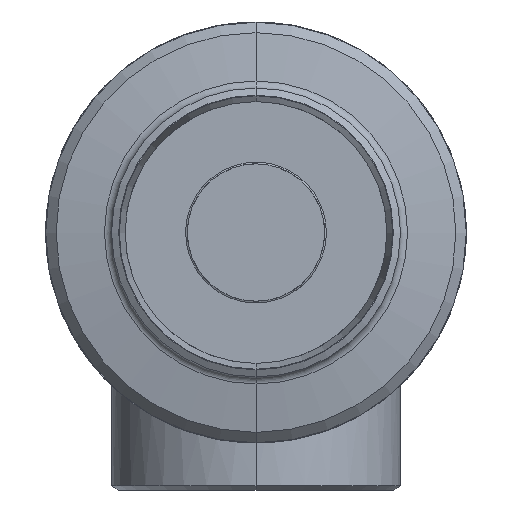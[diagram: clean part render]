
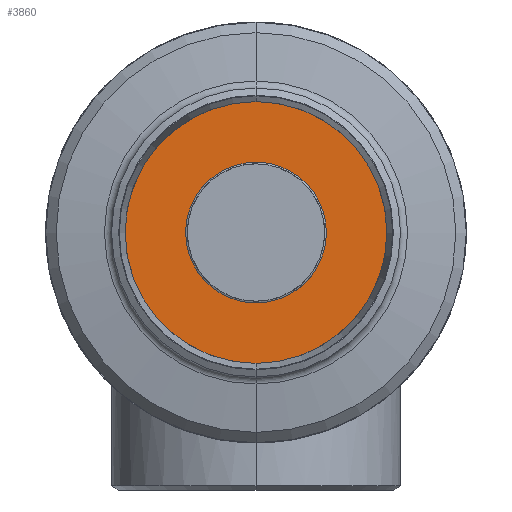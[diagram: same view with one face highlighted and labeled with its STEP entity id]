
A CAD part, front view. The second image highlights one B-rep face of the part: STEP entity #3860.
In plain terms, the highlighted planar face has unit normal (0, -1, 0) as drawn and (0, 0, 1) by its records, which use the part's own axes.
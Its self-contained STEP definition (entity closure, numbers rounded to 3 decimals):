
#682 = CARTESIAN_POINT ( 'NONE',  ( -40., 0., 16. ) ) ;
#1626 = CARTESIAN_POINT ( 'NONE',  ( -85., 0., 16. ) ) ;
#1796 = CARTESIAN_POINT ( 'NONE',  ( 85., 0., 16. ) ) ;
#1797 = CIRCLE ( 'NONE', #1798, 85. ) ;
#1798 = AXIS2_PLACEMENT_3D ( 'NONE', #1799, #1800, #1801 ) ;
#1799 = CARTESIAN_POINT ( 'NONE',  ( 0., 0., 16. ) ) ;
#1800 = DIRECTION ( 'NONE',  ( 0., 0., 1. ) ) ;
#1801 = DIRECTION ( 'NONE',  ( 1., 0., 0. ) ) ;
#1909 = ORIENTED_EDGE ( 'NONE', *, *, #3299, .T. ) ;
#1991 = CIRCLE ( 'NONE', #1992, 85. ) ;
#1992 = AXIS2_PLACEMENT_3D ( 'NONE', #1995, #1996, #1997 ) ;
#1995 = CARTESIAN_POINT ( 'NONE',  ( 0., 0., 16. ) ) ;
#1996 = DIRECTION ( 'NONE',  ( 0., 0., 1. ) ) ;
#1997 = DIRECTION ( 'NONE',  ( 1., 0., 0. ) ) ;
#2720 = CIRCLE ( 'NONE', #2721, 40. ) ;
#2721 = AXIS2_PLACEMENT_3D ( 'NONE', #2722, #2723, #2724 ) ;
#2722 = CARTESIAN_POINT ( 'NONE',  ( 0., 0., 16. ) ) ;
#2723 = DIRECTION ( 'NONE',  ( 0., 0., 1. ) ) ;
#2724 = DIRECTION ( 'NONE',  ( 1., 0., 0. ) ) ;
#3299 = EDGE_CURVE ( 'NONE', #3674, #3690, #1797, .T. ) ;
#3477 = ORIENTED_EDGE ( 'NONE', *, *, #3707, .T. ) ;
#3629 = EDGE_LOOP ( 'NONE', ( #1909, #3477 ) ) ;
#3642 = ORIENTED_EDGE ( 'NONE', *, *, #3869, .F. ) ;
#3674 = VERTEX_POINT ( 'NONE', #1626 ) ;
#3690 = VERTEX_POINT ( 'NONE', #1796 ) ;
#3707 = EDGE_CURVE ( 'NONE', #3690, #3674, #1991, .T. ) ;
#3749 = EDGE_CURVE ( 'NONE', #3859, #3930, #2720, .T. ) ;
#3758 = ORIENTED_EDGE ( 'NONE', *, *, #3749, .F. ) ;
#3859 = VERTEX_POINT ( 'NONE', #5712 ) ;
#3860 = ADVANCED_FACE ( 'NONE', ( #5718, #5719 ), #5720, .T. ) ;
#3869 = EDGE_CURVE ( 'NONE', #3930, #3859, #6061, .T. ) ;
#3912 = EDGE_LOOP ( 'NONE', ( #3758, #3642 ) ) ;
#3930 = VERTEX_POINT ( 'NONE', #682 ) ;
#5712 = CARTESIAN_POINT ( 'NONE',  ( 40., 0., 16. ) ) ;
#5718 = FACE_BOUND ( 'NONE', #3912, .T. ) ;
#5719 = FACE_OUTER_BOUND ( 'NONE', #3629, .T. ) ;
#5720 = PLANE ( 'NONE',  #5721 ) ;
#5721 = AXIS2_PLACEMENT_3D ( 'NONE', #5722, #5723, #5725 ) ;
#5722 = CARTESIAN_POINT ( 'NONE',  ( 0., 0., 16. ) ) ;
#5723 = DIRECTION ( 'NONE',  ( 0., 0., 1. ) ) ;
#5725 = DIRECTION ( 'NONE',  ( 1., 0., 0. ) ) ;
#6061 = CIRCLE ( 'NONE', #6062, 40. ) ;
#6062 = AXIS2_PLACEMENT_3D ( 'NONE', #6063, #6064, #6065 ) ;
#6063 = CARTESIAN_POINT ( 'NONE',  ( 0., 0., 16. ) ) ;
#6064 = DIRECTION ( 'NONE',  ( 0., 0., 1. ) ) ;
#6065 = DIRECTION ( 'NONE',  ( 1., 0., 0. ) ) ;
